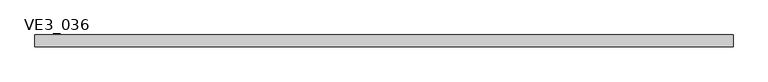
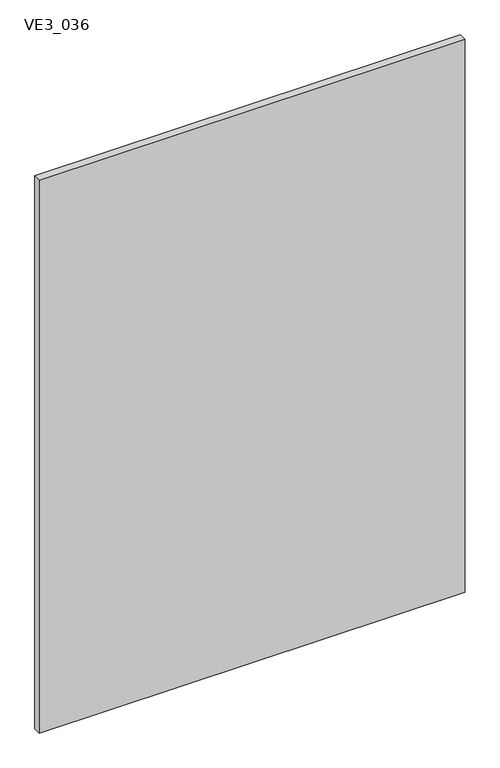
"""IFC4 building model written with IfcOpenShell, lengths in millimetres: plate geometry, TRP_CP_ARC_PF_RE_SE : VE3_036."""

import ifcopenshell
import ifcopenshell.guid

model = None  # the IFC model being written
_history = None  # IfcOwnerHistory: only IFC2X3 demands one
_inside = {}  # id of a spatial element -> (the spatial element, [elements in it])
_under = {}  # id of a project, library or spatial element -> (it, [spatial elements below it])
_declared = {}  # id of a project -> (the project, [libraries it declares])
_typed = {}  # id of a type object -> (the type object, [elements of that type])
_made_of = {}  # id of a material, layer set ... -> (it, [elements and type objects made of it])


def new_model(schema):
    """Start an empty IFC model of exactly this schema.

    Asked for "IFC4X3", IfcOpenShell would pick the latest addendum, in which some entities
    have other attributes; the version numbers below select the first issue.
    IFC2X3 requires an IfcOwnerHistory on every rooted entity: one is made here for all.
    """
    global model, _history
    if schema == "IFC4X3":
        model = ifcopenshell.file(schema_version=(4, 3, 0, 0))
    else:
        model = ifcopenshell.file(schema=schema)
    _inside.clear()
    _under.clear()
    _declared.clear()
    _typed.clear()
    _made_of.clear()
    _history = None
    if model.schema == "IFC2X3":
        org = make("IfcOrganization", Name="unknown")
        user = make(
            "IfcPersonAndOrganization",
            ThePerson=make("IfcPerson", FamilyName="unknown"),
            TheOrganization=org,
        )
        app = make(
            "IfcApplication",
            ApplicationDeveloper=org,
            Version="unknown",
            ApplicationFullName="unknown",
            ApplicationIdentifier="unknown",
        )
        _history = make(
            "IfcOwnerHistory",
            OwningUser=user,
            OwningApplication=app,
            ChangeAction="ADDED",
            CreationDate=0,
        )
    return model


def make(cls, **values):
    """One entity of the class cls with the attributes given. An attribute that is None is left unset."""
    return model.create_entity(
        cls, **{name: value for name, value in values.items() if value is not None}
    )


def rooted(cls, **values):
    """An entity with a GlobalId (a new one), such as an element, a storey or a relation."""
    return make(cls, GlobalId=ifcopenshell.guid.new(), OwnerHistory=_history, **values)


def si_unit(unit_type, name, prefix=None):
    """IfcSIUnit, for example si_unit("LENGTHUNIT", "METRE", prefix="MILLI")."""
    return make("IfcSIUnit", UnitType=unit_type, Prefix=prefix, Name=name)


def assignment(units):
    """IfcUnitAssignment: the units of a project."""
    return None if units is None else make("IfcUnitAssignment", Units=units)


def point(xyz):
    """IfcCartesianPoint."""
    return None if xyz is None else make("IfcCartesianPoint", Coordinates=xyz)


def direction(xyz):
    """IfcDirection."""
    return None if xyz is None else make("IfcDirection", DirectionRatios=xyz)


def frame(location, z_axis=None, x_axis=None):
    """IfcAxis2Placement3D, a coordinate frame: its origin and axes. An axis left out is left unset."""
    return make(
        "IfcAxis2Placement3D",
        Location=point(location),
        Axis=direction(z_axis),
        RefDirection=direction(x_axis),
    )


def origin():
    """The frame at (0, 0, 0) with its axes left unset."""
    return frame((0.0, 0.0, 0.0))


def place(relative_to, where):
    """IfcLocalPlacement: puts the frame where relative to a parent placement (None: the world)."""
    return make(
        "IfcLocalPlacement", PlacementRelTo=relative_to, RelativePlacement=where
    )


def context(
    kind, dimensions, precision=None, world=None, true_north=None, identifier=None
):
    """IfcGeometricRepresentationContext, for example the 3D "Model" context."""
    return make(
        "IfcGeometricRepresentationContext",
        ContextIdentifier=identifier,
        ContextType=kind,
        CoordinateSpaceDimension=dimensions,
        Precision=precision,
        WorldCoordinateSystem=world,
        TrueNorth=true_north,
    )


def project(units=None, contexts=None):
    """IfcProject with its units and contexts."""
    return rooted(
        "IfcProject",
        Name="project",
        RepresentationContexts=contexts,
        UnitsInContext=assignment(units),
    )


def spatial(cls, under=None, at=None, **own):
    """A site, building, storey or space (cls), placed at a placement, below another one or the project."""
    s = rooted(cls, ObjectPlacement=at, **own)
    if under is not None:
        _under.setdefault(under.id(), (under, []))[1].append(s)
    return s


def polyline(points):
    """IfcPolyline through the points."""
    return make("IfcPolyline", Points=[point(p) for p in points])


def outline(outer, holes=None, kind="AREA"):
    """IfcArbitraryClosedProfileDef: a profile drawn as a closed curve; with holes, ...WithVoids."""
    if holes is None:
        return make("IfcArbitraryClosedProfileDef", ProfileType=kind, OuterCurve=outer)
    return make(
        "IfcArbitraryProfileDefWithVoids",
        ProfileType=kind,
        OuterCurve=outer,
        InnerCurves=holes,
    )


def extrude(swept, where, along, depth):
    """IfcExtrudedAreaSolid: the profile swept, set in the frame where, extruded along a direction by depth."""
    return make(
        "IfcExtrudedAreaSolid",
        SweptArea=swept,
        Position=where,
        ExtrudedDirection=direction(along),
        Depth=depth,
    )


def shape(context_of_items, identifier, shape_type, items):
    """IfcShapeRepresentation: the items that make up one representation, for example the "Body"."""
    return make(
        "IfcShapeRepresentation",
        ContextOfItems=context_of_items,
        RepresentationIdentifier=identifier,
        RepresentationType=shape_type,
        Items=items,
    )


def source(mapping_origin, context_of_items, identifier, shape_type, items):
    """IfcRepresentationMap: a shape defined once, which mapped items show again and again."""
    return make(
        "IfcRepresentationMap",
        MappingOrigin=mapping_origin,
        MappedRepresentation=shape(context_of_items, identifier, shape_type, items),
    )


def transform(
    local_origin,
    x_axis=None,
    y_axis=None,
    z_axis=None,
    scale=None,
    scale2=None,
    scale3=None,
    uniform=True,
):
    """IfcCartesianTransformationOperator3D, or its non-uniform kind. x_axis, y_axis, z_axis: its Axis1, 2, 3."""
    if uniform:
        return make(
            "IfcCartesianTransformationOperator3D",
            Axis1=direction(x_axis),
            Axis2=direction(y_axis),
            LocalOrigin=point(local_origin),
            Scale=scale,
            Axis3=direction(z_axis),
        )
    return make(
        "IfcCartesianTransformationOperator3DnonUniform",
        Axis1=direction(x_axis),
        Axis2=direction(y_axis),
        LocalOrigin=point(local_origin),
        Scale=scale,
        Axis3=direction(z_axis),
        Scale2=scale2,
        Scale3=scale3,
    )


def mapped(mapping_source, mapping_target):
    """IfcMappedItem: shows the shape of a source again, moved by a transform."""
    return make(
        "IfcMappedItem", MappingSource=mapping_source, MappingTarget=mapping_target
    )


def made_of(thing, what):
    """Note that an element or type object is made of a material, layer set ...; save() writes the relation."""
    if what is not None:
        _made_of.setdefault(what.id(), (what, []))[1].append(thing)
    return thing


def element(
    cls,
    number,
    at=None,
    inside=None,
    cuts=None,
    type_object=None,
    material=None,
    context=None,
    identifier="Body",
    shape_type=None,
    held_by="IfcProductDefinitionShape",
    body=None,
    shapes=None,
    **own,
):
    """One element of the class cls, such as IfcWall. Its Tag is "e" and its number.

    at: its placement. inside: the storey or other place that contains it. cuts: it is an
    opening in that element (IfcRelVoidsElement). A single representation is given by context,
    identifier, shape_type and body (its items); several are given by shapes. held_by: the class
    of the entity that holds the representations. save() writes the other relations.
    """
    e = rooted(cls, Tag="e%d" % number, ObjectPlacement=at, **own)
    if body is not None:
        shapes = [shape(context, identifier, shape_type, body)]
    if shapes is not None:
        e.Representation = make(held_by, Representations=shapes)
    if inside is not None:
        _inside.setdefault(inside.id(), (inside, []))[1].append(e)
    if cuts is not None:
        rooted(
            "IfcRelVoidsElement", RelatingBuildingElement=cuts, RelatedOpeningElement=e
        )
    if type_object is not None:
        _typed.setdefault(type_object.id(), (type_object, []))[1].append(e)
    return made_of(e, material)


def aggregate(whole, parts):
    """IfcRelAggregates: a whole, such as a stair, and the parts it consists of."""
    return rooted("IfcRelAggregates", RelatingObject=whole, RelatedObjects=parts)


def save(model, path):
    """Write the relations noted so far, then the file.

    IfcRelAggregates (storeys below a building ...), IfcRelContainedInSpatialStructure (elements
    in a storey), IfcRelDefinesByType, IfcRelAssociatesMaterial and IfcRelDeclares: one each for
    every whole, place, type object, material and project.
    """
    for whole, parts in _under.values():
        aggregate(whole, parts)
    for where, things in _inside.values():
        rooted(
            "IfcRelContainedInSpatialStructure",
            RelatedElements=things,
            RelatingStructure=where,
        )
    for kind, things in _typed.values():
        rooted("IfcRelDefinesByType", RelatedObjects=things, RelatingType=kind)
    for what, things in _made_of.values():
        rooted("IfcRelAssociatesMaterial", RelatedObjects=things, RelatingMaterial=what)
    for by, libraries in _declared.values():
        rooted("IfcRelDeclares", RelatingContext=by, RelatedDefinitions=libraries)
    model.write(path)


def ve3_036_e27322a6(model_context):
    return source(origin(), model_context, "Body", "SweptSolid", [
        extrude(outline(polyline([(1068.7920364, 18.0), (1068.7920364, -18.0), (-1068.7920364, -18.0), (-1068.7920364, 18.0), (1068.7920364, 18.0)])), frame((0.0, 0.0, -3.1739529), z_axis=(0.0, 0.0, 1.0), x_axis=(1.0, 0.0, 0.0)), (0.0, 0.0, 1.0), 2933.1739529),
    ])


if __name__ == "__main__":
    model = new_model("IFC4")
    model_context = context("Model", 3, world=origin())
    ifc_project = project(units=[si_unit("LENGTHUNIT", "METRE", prefix="MILLI")], contexts=[model_context])
    site = spatial("IfcSite", under=ifc_project)
    building = spatial("IfcBuilding", under=site)
    placement = place(None, origin())
    ve3_036_shape = ve3_036_e27322a6(model_context)
    element("IfcPlate", 1, ObjectType="TRP_CP_ARC_PF_RE_SE : VE3_036", at=placement, inside=building, context=model_context, shape_type="MappedRepresentation", body=[
        mapped(ve3_036_shape, transform((0.0, 0.0, 0.0), x_axis=(1.0, 0.0, 0.0), y_axis=(0.0, 1.0, 0.0), z_axis=(0.0, 0.0, 1.0))),
    ])
    save(model, "model.ifc")
